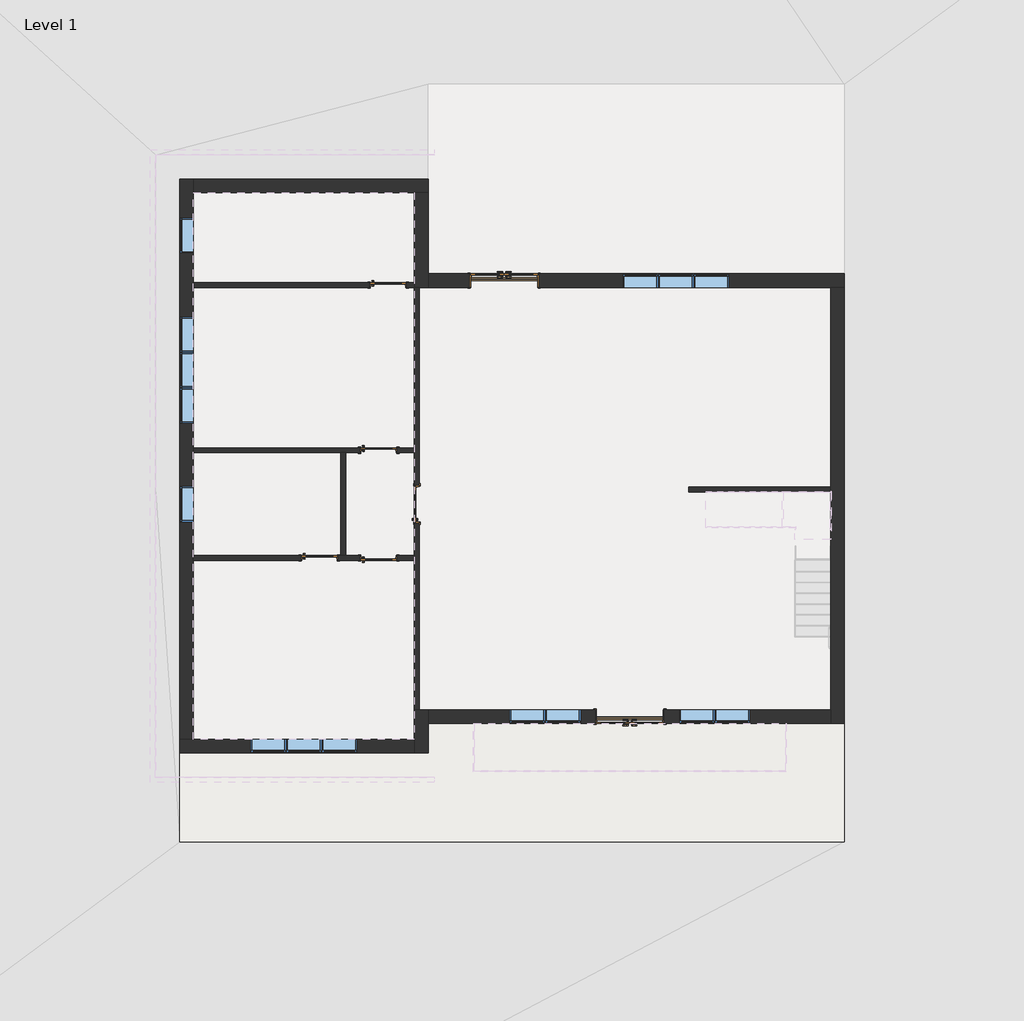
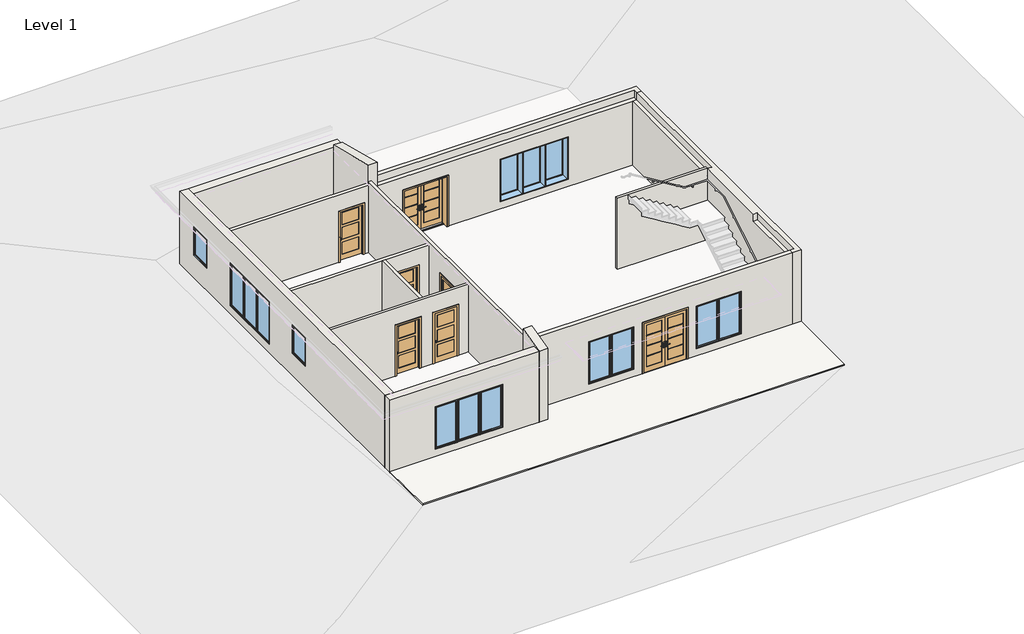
# One storey, part 1 of 2: 15 windows, 14 walls, 7 doors, 1 slab.
"""IFC4 building model written with IfcOpenShell, lengths in millimetres."""

from ifc_helpers import new_model, si_unit, frame, origin, origin_with_axes, place, context, project, spatial, polyline, outline, extrude, faceted_brep, transform, mapped, element, save
from components import door_f2de18c9, door_2a6061a4, door_30cbd227, window_15c49d37, window_145f8bd4, window_9c0dbd08

model = new_model("IFC4")

# Units and contexts
model_context = context("Model", 3, world=origin())
ifc_project = project(units=[si_unit("LENGTHUNIT", "METRE", prefix="MILLI")], contexts=[model_context])

# Site, building, storey
site = spatial("IfcSite", under=ifc_project)
building = spatial("IfcBuilding", under=site)
storey = spatial("IfcBuildingStorey", under=building, Name="Level 1", Elevation=0.0)

# Doors
placement = place(None, origin())
door_shape = door_f2de18c9(model_context)
element("IfcDoor", 1, ObjectType="Door-Exterior-Double-Full Glass-Wood_Clad : 68\" x 84\"", at=placement, inside=storey, context=model_context, shape_type="MappedRepresentation", body=[
    mapped(door_shape, transform((-588.0271335, 5682.0082618, 0.0), x_axis=(1.0, 0.0, 0.0), y_axis=(0.0, 1.0, 0.0), z_axis=(0.0, 0.0, 1.0))),
])
element("IfcDoor", 2, ObjectType="Door-Exterior-Double-Full Glass-Wood_Clad : 68\" x 84\"", at=placement, inside=storey, context=model_context, shape_type="MappedRepresentation", body=[
    mapped(door_shape, transform((2645.7103665, -5555.9042382, 0.0), x_axis=(-1.0, 0.0, 0.0), y_axis=(0.0, -1.0, 0.0), z_axis=(0.0, 0.0, 1.0))),
])
door_2_shape = door_2a6061a4(model_context)
element("IfcDoor", 3, ObjectType="Door-Interior-Single-3_Panel_Vert-Wood : 36\" x 84\"", at=placement, inside=storey, context=model_context, shape_type="MappedRepresentation", body=[
    mapped(door_2_shape, transform((-3820.1771335, 1313.3824196, 0.0), x_axis=(1.0, 0.0, 0.0), y_axis=(0.0, 1.0, 0.0), z_axis=(0.0, 0.0, 1.0))),
])
element("IfcDoor", 4, ObjectType="Door-Interior-Single-3_Panel_Vert-Wood : 36\" x 84\"", at=placement, inside=storey, context=model_context, shape_type="MappedRepresentation", body=[
    mapped(door_2_shape, transform((-5344.1771335, -1461.5675804, 0.0), x_axis=(1.0, 0.0, 0.0), y_axis=(0.0, 1.0, 0.0), z_axis=(0.0, 0.0, 1.0))),
])
element("IfcDoor", 5, ObjectType="Door-Interior-Single-3_Panel_Vert-Wood : 36\" x 84\"", at=placement, inside=storey, context=model_context, shape_type="MappedRepresentation", body=[
    mapped(door_2_shape, transform((-3575.7021335, 5567.7082618, 0.0), x_axis=(1.0, 0.0, 0.0), y_axis=(0.0, 1.0, 0.0), z_axis=(0.0, 0.0, 1.0))),
])
element("IfcDoor", 6, ObjectType="Door-Interior-Single-3_Panel_Vert-Wood : 36\" x 84\"", at=placement, inside=storey, context=model_context, shape_type="MappedRepresentation", body=[
    mapped(door_2_shape, transform((-2839.1021335, -77.2675804, 0.0), x_axis=(0.0, 1.0, 0.0), y_axis=(-1.0, 0.0, 0.0), z_axis=(0.0, 0.0, 1.0))),
])
door_3_shape = door_30cbd227(model_context)
element("IfcDoor", 7, ObjectType="Door-Interior-Single-3_Panel_Vert-Wood : 36\" x 84\"", at=placement, inside=storey, context=model_context, shape_type="MappedRepresentation", body=[
    mapped(door_3_shape, transform((-3820.1771335, -1467.9175804, 0.0), x_axis=(1.0, 0.0, 0.0), y_axis=(0.0, 1.0, 0.0), z_axis=(0.0, 0.0, 1.0))),
])

# Slab
element("IfcSlab", 8, ObjectType="Exterior Decking", at=placement, inside=storey, context=model_context, shape_type="SweptSolid", body=[
    extrude(outline(polyline([(8170.2103665, -5728.9417382), (8170.2103665, -8776.9417382), (-8946.2146335, -8776.9417382), (-8946.2146335, -6489.3542382), (-2545.4146335, -6489.3542382), (-2545.4146335, -5728.9417382), (8170.2103665, -5728.9417382)])), frame((0.0, 0.0, -177.8), z_axis=(0.0, 0.0, 1.0), x_axis=(1.0, 0.0, 0.0)), (0.0, 0.0, 1.0), 177.8),
])

# Walls
element("IfcWall", 9, ObjectType="Exterior - Brick on Mtl. Stud", at=placement, inside=storey, context=model_context, shape_type="Brep", body=[
    faceted_brep([(8170.2103665, 5502.6207618, -304.8), (8170.2103665, 5502.6207618, 3048.0), (7982.8853665, 5502.6207618, 3048.0), (7982.8853665, 5502.6207618, 2743.2), (7817.7853665, 5502.6207618, 2743.2), (-2545.4146335, 5502.6207618, 2743.2), (-2545.4146335, 5502.6207618, 0.0), (-1477.0271335, 5502.6207618, 0.0), (-1477.0271335, 5502.6207618, 2159.0), (300.9728665, 5502.6207618, 2159.0), (300.9728665, 5502.6207618, 0.0), (7817.7853665, 5502.6207618, 0.0), (7982.8853665, 5502.6207618, 0.0), (7982.8853665, 5502.6207618, -304.8), (5201.9826836, 5502.6207618, 2133.6), (5201.9826836, 5502.6207618, 304.8), (2458.7826836, 5502.6207618, 304.8), (2458.7826836, 5502.6207618, 2133.6), (-2545.4146335, 5855.0457618, 3048.0), (7817.7853665, 5855.0457618, 3048.0), (8170.2103665, 5855.0457618, 3048.0), (8170.2103665, 5855.0457618, -304.8), (300.9728665, 5855.0457618, -304.8), (300.9728665, 5855.0457618, 0.0), (300.9728665, 5855.0457618, 2159.0), (-1477.0271335, 5855.0457618, 2159.0), (-1477.0271335, 5855.0457618, 0.0), (-1477.0271335, 5855.0457618, -304.8), (-2545.4146335, 5855.0457618, -304.8), (5201.9826836, 5855.0457618, 304.8), (5201.9826836, 5855.0457618, 2133.6), (2458.7826836, 5855.0457618, 2133.6), (2458.7826836, 5855.0457618, 304.8), (7982.8853665, 5667.7207618, -304.8), (300.9728665, 5667.7207618, -304.8), (-1477.0271335, 5667.7207618, -304.8), (-2545.4146335, 5667.7207618, -304.8), (-2545.4146335, 5667.7207618, 3048.0), (7982.8853665, 5667.7207618, 3048.0), (300.9728665, 5667.7207618, 0.0), (-1477.0271335, 5667.7207618, 0.0), (-2545.4146335, 5667.7207618, 0.0), (7982.8853665, 5667.7207618, 0.0), (7982.8853665, 5667.7207618, 2743.2), (-2545.4146335, 5667.7207618, 2743.2)], [[[0, 1, 2, 3, 4, 5, 6, 7, 8, 9, 10, 11, 12, 13], [14, 15, 16, 17]], [[18, 19, 20, 21, 22, 23, 24, 25, 26, 27, 28], [29, 30, 31, 32]], [[21, 0, 13, 33, 34, 22]], [[35, 36, 28, 27]], [[20, 19, 18, 37, 38, 2, 1]], [[1, 0, 21, 20]], [[15, 29, 32, 16]], [[29, 15, 14, 30]], [[30, 14, 17, 31]], [[31, 17, 16, 32]], [[9, 24, 23, 22, 34, 39, 10]], [[24, 9, 8, 25]], [[25, 8, 7, 40, 35, 27, 26]], [[41, 40, 7, 6]], [[42, 12, 11, 10, 39]], [[40, 41, 36, 35]], [[12, 42, 33, 13]], [[3, 43, 44, 5, 4]], [[43, 38, 37, 44]], [[38, 43, 3, 2]], [[18, 28, 36, 41, 6, 5, 44, 37]], [[42, 39, 34, 33]]]),
])
element("IfcWall", 10, ObjectType="Exterior - Brick on Mtl. Stud", at=placement, inside=storey, context=model_context, shape_type="Brep", body=[
    faceted_brep([(7817.7853665, -5728.9417382, -304.8), (7817.7853665, -5728.9417382, 3048.0), (7817.7853665, -5541.6167382, 3048.0), (7817.7853665, -5541.6167382, 2743.2), (7817.7853665, -5376.5167382, 2743.2), (7817.7853665, -2988.9167382, 2743.2), (7817.7853665, -2988.9167382, 3048.0), (7817.7853665, 236.8832618, 3048.0), (7817.7853665, 236.8832618, 2743.2), (7817.7853665, 5502.6207618, 2743.2), (7817.7853665, 5502.6207618, 0.0), (7817.7853665, 363.8832618, 0.0), (7817.7853665, 236.8832618, 0.0), (7817.7853665, -5376.5167382, 0.0), (7817.7853665, -5541.6167382, 0.0), (7817.7853665, -5541.6167382, -304.8), (8170.2103665, -5728.9417382, -304.8), (8170.2103665, 5502.6207618, -304.8), (8170.2103665, 5502.6207618, 3048.0), (8170.2103665, -5728.9417382, 3048.0), (7982.8853665, -5541.6167382, -304.8), (7982.8853665, 5502.6207618, -304.8), (7982.8853665, 5502.6207618, 3048.0), (7982.8853665, 236.8832618, 3048.0), (7982.8853665, -2988.9167382, 3048.0), (7982.8853665, -5541.6167382, 3048.0), (7982.8853665, 5502.6207618, 0.0), (7982.8853665, 5502.6207618, 2743.2), (7982.8853665, -5541.6167382, 0.0), (7982.8853665, -5541.6167382, 2743.2), (7982.8853665, -2988.9167382, 2743.2), (7982.8853665, 236.8832618, 2743.2)], [[[0, 1, 2, 3, 4, 5, 6, 7, 8, 9, 10, 11, 12, 13, 14, 15]], [[16, 17, 18, 19]], [[17, 16, 0, 15, 20, 21]], [[19, 18, 22, 23, 7, 6, 24, 25, 2, 1]], [[18, 17, 21, 26, 10, 9, 27, 22]], [[1, 0, 16, 19]], [[26, 28, 14, 13, 12, 11, 10]], [[20, 28, 26, 21]], [[28, 20, 15, 14]], [[29, 30, 5, 4, 3]], [[8, 31, 27, 9]], [[31, 23, 22, 27]], [[25, 29, 3, 2]], [[30, 29, 25, 24]], [[23, 31, 8, 7]], [[30, 24, 6, 5]]]),
])
element("IfcWall", 11, ObjectType="Exterior - Brick on Mtl. Stud", at=placement, inside=storey, context=model_context, shape_type="Brep", body=[
    faceted_brep([(7817.7853665, -5728.9417382, 3048.0), (-2545.4146335, -5728.9417382, 3048.0), (-2545.4146335, -5728.9417382, -304.8), (1756.7103665, -5728.9417382, -304.8), (1756.7103665, -5728.9417382, 0.0), (1756.7103665, -5728.9417382, 2159.0), (3534.7103665, -5728.9417382, 2159.0), (3534.7103665, -5728.9417382, 0.0), (3534.7103665, -5728.9417382, -304.8), (7817.7853665, -5728.9417382, -304.8), (3914.1228665, -5728.9417382, 304.8), (3914.1228665, -5728.9417382, 2133.6), (5742.9228665, -5728.9417382, 2133.6), (5742.9228665, -5728.9417382, 304.8), (1377.2978665, -5728.9417382, 2133.6), (1377.2978665, -5728.9417382, 304.8), (-451.5021335, -5728.9417382, 304.8), (-451.5021335, -5728.9417382, 2133.6), (1756.7103665, -5376.5167382, 2159.0), (1756.7103665, -5376.5167382, 0.0), (-2545.4146335, -5376.5167382, 0.0), (-2545.4146335, -5376.5167382, 2743.2), (7817.7853665, -5376.5167382, 2743.2), (7817.7853665, -5376.5167382, 0.0), (3534.7103665, -5376.5167382, 0.0), (3534.7103665, -5376.5167382, 2159.0), (3914.1228665, -5376.5167382, 2133.6), (3914.1228665, -5376.5167382, 304.8), (5742.9228665, -5376.5167382, 304.8), (5742.9228665, -5376.5167382, 2133.6), (1377.2978665, -5376.5167382, 304.8), (1377.2978665, -5376.5167382, 2133.6), (-451.5021335, -5376.5167382, 2133.6), (-451.5021335, -5376.5167382, 304.8), (-2545.4146335, -5541.6167382, -304.8), (1756.7103665, -5541.6167382, -304.8), (7817.7853665, -5541.6167382, -304.8), (3534.7103665, -5541.6167382, -304.8), (7817.7853665, -5541.6167382, 3048.0), (-2545.4146335, -5541.6167382, 3048.0), (1756.7103665, -5541.6167382, 0.0), (3534.7103665, -5541.6167382, 0.0), (7817.7853665, -5541.6167382, 0.0), (7817.7853665, -5541.6167382, 2743.2), (-2545.4146335, -5541.6167382, 2743.2), (-2545.4146335, -5541.6167382, 0.0)], [[[0, 1, 2, 3, 4, 5, 6, 7, 8, 9], [10, 11, 12, 13], [14, 15, 16, 17]], [[18, 19, 20, 21, 22, 23, 24, 25], [26, 27, 28, 29], [30, 31, 32, 33]], [[2, 34, 35, 3]], [[36, 9, 8, 37]], [[1, 0, 38, 39]], [[18, 5, 4, 3, 35, 40, 19]], [[5, 18, 25, 6]], [[6, 25, 24, 41, 37, 8, 7]], [[27, 26, 11, 10]], [[27, 10, 13, 28]], [[11, 26, 29, 12]], [[15, 14, 31, 30]], [[15, 30, 33, 16]], [[31, 14, 17, 32]], [[0, 9, 36, 42, 23, 22, 43, 38]], [[2, 1, 39, 44, 21, 20, 45, 34]], [[24, 23, 42, 41]], [[40, 45, 20, 19]], [[45, 40, 35, 34]], [[44, 43, 22, 21]], [[43, 44, 39, 38]], [[28, 13, 12, 29]], [[32, 17, 16, 33]], [[37, 41, 42, 36]]]),
])
element("IfcWall", 12, ObjectType="Exterior - Timber Siding on Mtl. Stud", at=placement, inside=storey, context=model_context, shape_type="Brep", body=[
    faceted_brep([(-2897.8396335, -6489.3542382, -304.8), (-2897.8396335, -6489.3542382, 3048.0), (-2897.8396335, -5376.5167382, 3326.209375), (-2897.8396335, -5376.5167382, 3048.0), (-2897.8396335, -5376.5167382, 0.0), (-2897.8396335, -6136.9292382, 0.0), (-2897.8396335, -6302.0292382, 0.0), (-2897.8396335, -6302.0292382, -304.8), (-2545.4146335, -6489.3542382, 3048.0), (-2545.4146335, -6489.3542382, -304.8), (-2545.4146335, -5728.9417382, -304.8), (-2545.4146335, -5541.6167382, -304.8), (-2545.4146335, -5541.6167382, 0.0), (-2545.4146335, -5376.5167382, 0.0), (-2545.4146335, -5376.5167382, 2743.2), (-2545.4146335, -5376.5167382, 3048.0), (-2545.4146335, -5376.5167382, 3326.209375), (-2732.7396335, -6302.0292382, -304.8), (-2732.7396335, -5541.6167382, -304.8), (-2774.0146335, -5376.5167382, 0.0), (-2732.7396335, -5541.6167382, 0.0), (-2732.7396335, -6302.0292382, 0.0)], [[[0, 1, 2, 3, 4, 5, 6, 7]], [[8, 9, 10, 11, 12, 13, 14, 15, 16]], [[9, 0, 7, 17, 18, 11, 10]], [[1, 0, 9, 8]], [[2, 16, 15, 14, 13, 19, 4, 3]], [[20, 21, 6, 5, 4, 19, 13, 12]], [[18, 20, 12, 11]], [[21, 20, 18, 17]], [[21, 17, 7, 6]], [[2, 1, 8, 16]]]),
])
element("IfcWall", 13, ObjectType="Exterior - Timber Siding on Mtl. Stud", at=placement, inside=storey, context=model_context, shape_type="Brep", body=[
    faceted_brep([(-8946.2146335, -6136.9292382, 3048.0), (-8593.7896335, -6136.9292382, 3048.0), (-2897.8396335, -6136.9292382, 3048.0), (-2897.8396335, -6136.9292382, 0.0), (-8758.8896335, -6136.9292382, 0.0), (-8758.8896335, -6136.9292382, -304.8), (-8946.2146335, -6136.9292382, -304.8), (-7117.4146335, -6136.9292382, 2133.6), (-7117.4146335, -6136.9292382, 304.8), (-4374.2146335, -6136.9292382, 304.8), (-4374.2146335, -6136.9292382, 2133.6), (-8946.2146335, -6489.3542382, -304.8), (-2897.8396335, -6489.3542382, -304.8), (-2897.8396335, -6489.3542382, 3048.0), (-8946.2146335, -6489.3542382, 3048.0), (-7117.4146335, -6489.3542382, 304.8), (-7117.4146335, -6489.3542382, 2133.6), (-4374.2146335, -6489.3542382, 2133.6), (-4374.2146335, -6489.3542382, 304.8), (-8758.8896335, -6302.0292382, -304.8), (-2897.8396335, -6302.0292382, -304.8), (-2897.8396335, -6302.0292382, 0.0), (-8758.8896335, -6302.0292382, 0.0)], [[[0, 1, 2, 3, 4, 5, 6], [7, 8, 9, 10]], [[11, 12, 13, 14], [15, 16, 17, 18]], [[12, 11, 6, 5, 19, 20]], [[2, 1, 0, 14, 13]], [[2, 13, 12, 20, 21, 3]], [[0, 6, 11, 14]], [[8, 15, 18, 9]], [[16, 7, 10, 17]], [[7, 16, 15, 8]], [[9, 18, 17, 10]], [[21, 22, 4, 3]], [[19, 22, 21, 20]], [[22, 19, 5, 4]]]),
])
element("IfcWall", 14, ObjectType="Exterior - Timber Siding on Mtl. Stud", at=placement, inside=storey, context=model_context, shape_type="Brep", body=[
    faceted_brep([(-8593.7896335, 8293.4457618, 3048.0), (-8593.7896335, 7941.0207618, 3048.0), (-8593.7896335, -6136.9292382, 3048.0), (-8593.7896335, -6136.9292382, 0.0), (-8593.7896335, -1526.6550804, 0.0), (-8593.7896335, -1402.8300804, 0.0), (-8593.7896335, 1248.2949196, 0.0), (-8593.7896335, 1372.1199196, 0.0), (-8593.7896335, 5502.6207618, 0.0), (-8593.7896335, 5626.4457618, 0.0), (-8593.7896335, 7941.0207618, 0.0), (-8593.7896335, 8106.1207618, 0.0), (-8593.7896335, 8106.1207618, -304.8), (-8593.7896335, 8293.4457618, -304.8), (-8593.7896335, 2002.2703407, 304.8), (-8593.7896335, 2002.2703407, 2133.6), (-8593.7896335, 4745.4703407, 2133.6), (-8593.7896335, 4745.4703407, 304.8), (-8593.7896335, 379.9324196, 2133.6), (-8593.7896335, 379.9324196, 914.4), (-8593.7896335, -534.4675804, 914.4), (-8593.7896335, -534.4675804, 2133.6), (-8593.7896335, 7298.8770118, 2133.6), (-8593.7896335, 7298.8770118, 914.4), (-8593.7896335, 6384.4770118, 914.4), (-8593.7896335, 6384.4770118, 2133.6), (-8946.2146335, 8293.4457618, -304.8), (-8946.2146335, -6136.9292382, -304.8), (-8946.2146335, -6136.9292382, 3048.0), (-8946.2146335, 8293.4457618, 3048.0), (-8946.2146335, 2002.2703407, 2133.6), (-8946.2146335, 2002.2703407, 304.8), (-8946.2146335, 4745.4703407, 304.8), (-8946.2146335, 4745.4703407, 2133.6), (-8946.2146335, 379.9324196, 914.4), (-8946.2146335, 379.9324196, 2133.6), (-8946.2146335, -534.4675804, 2133.6), (-8946.2146335, -534.4675804, 914.4), (-8946.2146335, 7298.8770118, 914.4), (-8946.2146335, 7298.8770118, 2133.6), (-8946.2146335, 6384.4770118, 2133.6), (-8946.2146335, 6384.4770118, 914.4), (-8758.8896335, 8106.1207618, -304.8), (-8758.8896335, -6136.9292382, -304.8), (-8758.8896335, -6136.9292382, 0.0), (-8758.8896335, 8106.1207618, 0.0)], [[[0, 1, 2, 3, 4, 5, 6, 7, 8, 9, 10, 11, 12, 13], [14, 15, 16, 17], [18, 19, 20, 21], [22, 23, 24, 25]], [[26, 27, 28, 29], [30, 31, 32, 33], [34, 35, 36, 37], [38, 39, 40, 41]], [[27, 26, 13, 12, 42, 43]], [[2, 1, 0, 29, 28]], [[2, 28, 27, 43, 44, 3]], [[31, 14, 17, 32]], [[14, 31, 30, 15]], [[15, 30, 33, 16]], [[16, 33, 32, 17]], [[19, 18, 35, 34]], [[20, 19, 34, 37]], [[21, 20, 37, 36]], [[18, 21, 36, 35]], [[0, 13, 26, 29]], [[23, 22, 39, 38]], [[24, 23, 38, 41]], [[25, 24, 41, 40]], [[22, 25, 40, 39]], [[44, 45, 11, 10, 9, 8, 7, 6, 5, 4, 3]], [[42, 45, 44, 43]], [[45, 42, 12, 11]]]),
])
element("IfcWall", 15, ObjectType="Exterior - Timber Siding on Mtl. Stud", at=placement, inside=storey, context=model_context, shape_type="Brep", body=[
    faceted_brep([(-2545.4146335, 7941.0207618, 3048.0), (-8593.7896335, 7941.0207618, 3048.0), (-8593.7896335, 7941.0207618, 0.0), (-2732.7396335, 7941.0207618, 0.0), (-2732.7396335, 7941.0207618, -304.8), (-2545.4146335, 7941.0207618, -304.8), (-2545.4146335, 8293.4457618, -304.8), (-8593.7896335, 8293.4457618, -304.8), (-8593.7896335, 8293.4457618, 3048.0), (-2545.4146335, 8293.4457618, 3048.0), (-2732.7396335, 8106.1207618, -304.8), (-8593.7896335, 8106.1207618, -304.8), (-8593.7896335, 8106.1207618, 0.0), (-2732.7396335, 8106.1207618, 0.0)], [[[0, 1, 2, 3, 4, 5]], [[6, 7, 8, 9]], [[7, 6, 5, 4, 10, 11]], [[1, 0, 9, 8]], [[0, 5, 6, 9]], [[1, 8, 7, 11, 12, 2]], [[12, 13, 3, 2]], [[10, 13, 12, 11]], [[13, 10, 4, 3]]]),
])
element("IfcWall", 16, ObjectType="Exterior - Timber Siding on Mtl. Stud", at=placement, inside=storey, context=model_context, shape_type="Brep", body=[
    faceted_brep([(-2897.8396335, 5502.6207618, 3745.70625), (-2897.8396335, 7941.0207618, 3136.10625), (-2897.8396335, 7941.0207618, 0.0), (-2897.8396335, 5626.4457618, 0.0), (-2897.8396335, 5502.6207618, 0.0), (-2897.8396335, 5502.6207618, 2895.6), (-2897.8396335, 5502.6207618, 3048.0), (-2545.4146335, 7941.0207618, -304.8), (-2545.4146335, 7941.0207618, 3048.0), (-2545.4146335, 7941.0207618, 3136.10625), (-2545.4146335, 5502.6207618, 3745.70625), (-2545.4146335, 5502.6207618, 2743.2), (-2545.4146335, 5502.6207618, 0.0), (-2545.4146335, 5667.7207618, 0.0), (-2545.4146335, 5667.7207618, -304.8), (-2545.4146335, 5855.0457618, -304.8), (-2732.7396335, 5667.7207618, -304.8), (-2732.7396335, 7941.0207618, -304.8), (-2732.7396335, 7941.0207618, 0.0), (-2732.7396335, 5667.7207618, 0.0), (-2774.0146335, 5502.6207618, 0.0)], [[[0, 1, 2, 3, 4, 5, 6]], [[7, 8, 9, 10, 11, 12, 13, 14, 15]], [[7, 15, 14, 16, 17]], [[9, 8, 7, 17, 18, 2, 1]], [[19, 13, 12, 20, 4, 3, 2, 18]], [[19, 16, 14, 13]], [[16, 19, 18, 17]], [[1, 0, 10, 9]], [[10, 0, 6, 5, 4, 20, 12, 11]]]),
])
element("IfcWall", 17, ObjectType="Interior - 4 7/8\" Partition (1-hr)", at=placement, inside=storey, context=model_context, shape_type="Brep", body=[
    faceted_brep([(-2774.0146335, 5502.6207618, 3048.0), (-2774.0146335, -5376.5167382, 3048.0), (-2774.0146335, -5376.5167382, 0.0), (-2774.0146335, -559.8675804, 0.0), (-2774.0146335, -559.8675804, 2159.0), (-2774.0146335, 405.3324196, 2159.0), (-2774.0146335, 405.3324196, 0.0), (-2774.0146335, 5502.6207618, 0.0), (-2897.8396335, -5376.5167382, 3048.0), (-2897.8396335, 5502.6207618, 3048.0), (-2897.8396335, 5502.6207618, 0.0), (-2897.8396335, 1372.1199196, 0.0), (-2897.8396335, 1248.2949196, 0.0), (-2897.8396335, 405.3324196, 0.0), (-2897.8396335, 405.3324196, 2159.0), (-2897.8396335, -559.8675804, 2159.0), (-2897.8396335, -559.8675804, 0.0), (-2897.8396335, -1402.8300804, 0.0), (-2897.8396335, -1526.6550804, 0.0), (-2897.8396335, -5376.5167382, 0.0)], [[[0, 1, 2, 3, 4, 5, 6, 7]], [[8, 9, 10, 11, 12, 13, 14, 15, 16, 17, 18, 19]], [[2, 19, 18, 17, 16, 3]], [[10, 7, 6, 13, 12, 11]], [[1, 0, 9, 8]], [[5, 14, 13, 6]], [[14, 5, 4, 15]], [[15, 4, 3, 16]], [[2, 1, 8, 19]], [[7, 10, 9, 0]]]),
])
element("IfcWall", 18, ObjectType="Interior - 4 7/8\" Partition (1-hr)", at=placement, inside=storey, context=model_context, shape_type="Brep", body=[
    faceted_brep([(-8593.7896335, -1402.8300804, 0.0), (-8593.7896335, -1402.8300804, 2895.6), (-4794.9021335, -1402.8300804, 2895.6), (-4671.0771335, -1402.8300804, 2895.6), (-2897.8396335, -1402.8300804, 2895.6), (-2897.8396335, -1402.8300804, 0.0), (-3337.5771335, -1402.8300804, 0.0), (-3337.5771335, -1402.8300804, 2159.0), (-4302.7771335, -1402.8300804, 2159.0), (-4302.7771335, -1402.8300804, 0.0), (-4671.0771335, -1402.8300804, 0.0), (-4794.9021335, -1402.8300804, 0.0), (-4861.5771335, -1402.8300804, 0.0), (-4861.5771335, -1402.8300804, 2159.0), (-5826.7771335, -1402.8300804, 2159.0), (-5826.7771335, -1402.8300804, 0.0), (-8593.7896335, -1526.6550804, 2895.6), (-8593.7896335, -1526.6550804, 0.0), (-5826.7771335, -1526.6550804, 0.0), (-5826.7771335, -1526.6550804, 2159.0), (-4861.5771335, -1526.6550804, 2159.0), (-4861.5771335, -1526.6550804, 0.0), (-4302.7771335, -1526.6550804, 0.0), (-4302.7771335, -1526.6550804, 2159.0), (-3337.5771335, -1526.6550804, 2159.0), (-3337.5771335, -1526.6550804, 0.0), (-2897.8396335, -1526.6550804, 0.0), (-2897.8396335, -1526.6550804, 2895.6)], [[[0, 1, 2, 3, 4, 5, 6, 7, 8, 9, 10, 11, 12, 13, 14, 15]], [[16, 17, 18, 19, 20, 21, 22, 23, 24, 25, 26, 27]], [[17, 0, 15, 18]], [[5, 26, 25, 6]], [[9, 22, 21, 12, 11, 10]], [[1, 0, 17, 16]], [[5, 4, 27, 26]], [[24, 7, 6, 25]], [[7, 24, 23, 8]], [[8, 23, 22, 9]], [[20, 13, 12, 21]], [[13, 20, 19, 14]], [[14, 19, 18, 15]], [[4, 3, 2, 1, 16, 27]]]),
])
element("IfcWall", 19, ObjectType="Interior - 4 7/8\" Partition (1-hr)", at=placement, inside=storey, context=model_context, shape_type="SweptSolid", body=[
    extrude(outline(polyline([(-4671.0771335, 1248.2949196), (-4671.0771335, -1402.8300804), (-4794.9021335, -1402.8300804), (-4794.9021335, 1248.2949196), (-4671.0771335, 1248.2949196)])), origin_with_axes(), (0.0, 0.0, 1.0), 2895.6),
])
element("IfcWall", 20, ObjectType="Interior - 4 7/8\" Partition (1-hr)", at=placement, inside=storey, context=model_context, shape_type="Brep", body=[
    faceted_brep([(-8593.7896335, 1248.2949196, 2895.6), (-8593.7896335, 1248.2949196, 0.0), (-4794.9021335, 1248.2949196, 0.0), (-4671.0771335, 1248.2949196, 0.0), (-4302.7771335, 1248.2949196, 0.0), (-4302.7771335, 1248.2949196, 2159.0), (-3337.5771335, 1248.2949196, 2159.0), (-3337.5771335, 1248.2949196, 0.0), (-2897.8396335, 1248.2949196, 0.0), (-2897.8396335, 1248.2949196, 2895.6), (-4671.0771335, 1248.2949196, 2895.6), (-4794.9021335, 1248.2949196, 2895.6), (-8593.7896335, 1372.1199196, 0.0), (-8593.7896335, 1372.1199196, 2895.6), (-2897.8396335, 1372.1199196, 2895.6), (-2897.8396335, 1372.1199196, 0.0), (-3337.5771335, 1372.1199196, 0.0), (-3337.5771335, 1372.1199196, 2159.0), (-4302.7771335, 1372.1199196, 2159.0), (-4302.7771335, 1372.1199196, 0.0)], [[[0, 1, 2, 3, 4, 5, 6, 7, 8, 9, 10, 11]], [[12, 13, 14, 15, 16, 17, 18, 19]], [[1, 12, 19, 4, 3, 2]], [[15, 8, 7, 16]], [[1, 0, 13, 12]], [[9, 8, 15, 14]], [[6, 17, 16, 7]], [[17, 6, 5, 18]], [[18, 5, 4, 19]], [[0, 11, 10, 9, 14, 13]]]),
])
element("IfcWall", 21, ObjectType="Interior - 4 7/8\" Partition (1-hr)", at=placement, inside=storey, context=model_context, shape_type="SweptSolid", body=[
    extrude(outline(polyline([(2895.6, -8593.7896335), (0.0, -8593.7896335), (0.0, -4058.3021335), (2159.0, -4058.3021335), (2159.0, -3093.1021335), (0.0, -3093.1021335), (0.0, -2897.8396335), (2895.6, -2897.8396335), (2895.6, -8593.7896335)])), frame((0.0, 5502.6207618, 0.0), z_axis=(0.0, 1.0, 0.0), x_axis=(0.0, 0.0, 1.0)), (0.0, 0.0, 1.0), 123.825),
])
element("IfcWall", 22, ObjectType="Interior - 5\" Partition (2-hr)", at=placement, inside=storey, context=model_context, shape_type="SweptSolid", body=[
    extrude(outline(polyline([(4160.1853665, 363.8832618), (7817.7853665, 363.8832618), (7817.7853665, 236.8832618), (4160.1853665, 236.8832618), (4160.1853665, 363.8832618)])), origin_with_axes(), (0.0, 0.0, 1.0), 3048.0),
])

# Windows
window_shape = window_15c49d37(model_context)
element("IfcWindow", 23, ObjectType="Fixed : 36\" x 48\"", at=placement, inside=storey, context=model_context, shape_type="MappedRepresentation", body=[
    mapped(window_shape, transform((-8770.0021335, -39.1675804, 0.0), x_axis=(0.0, 1.0, 0.0), y_axis=(-1.0, 0.0, 0.0), z_axis=(0.0, 0.0, 1.0))),
])
element("IfcWindow", 24, ObjectType="Fixed : 36\" x 48\"", at=placement, inside=storey, context=model_context, shape_type="MappedRepresentation", body=[
    mapped(window_shape, transform((-8770.0021335, 6879.7770118, 0.0), x_axis=(0.0, 1.0, 0.0), y_axis=(-1.0, 0.0, 0.0), z_axis=(0.0, 0.0, 1.0))),
])
window_2_shape = window_145f8bd4(model_context)
element("IfcWindow", 25, ObjectType="Fixed : 36\" x 72\"", at=placement, inside=storey, context=model_context, shape_type="MappedRepresentation", body=[
    mapped(window_2_shape, transform((-5783.9146335, -6313.1417382, 0.0), x_axis=(-1.0, 0.0, 0.0), y_axis=(0.0, -1.0, 0.0), z_axis=(0.0, 0.0, 1.0))),
])
element("IfcWindow", 26, ObjectType="Fixed : 36\" x 72\"", at=placement, inside=storey, context=model_context, shape_type="MappedRepresentation", body=[
    mapped(window_2_shape, transform((-6698.3146335, -6313.1417382, 0.0), x_axis=(-1.0, 0.0, 0.0), y_axis=(0.0, -1.0, 0.0), z_axis=(0.0, 0.0, 1.0))),
])
element("IfcWindow", 27, ObjectType="Fixed : 36\" x 72\"", at=placement, inside=storey, context=model_context, shape_type="MappedRepresentation", body=[
    mapped(window_2_shape, transform((-4869.5146335, -6313.1417382, 0.0), x_axis=(-1.0, 0.0, 0.0), y_axis=(0.0, -1.0, 0.0), z_axis=(0.0, 0.0, 1.0))),
])
element("IfcWindow", 28, ObjectType="Fixed : 36\" x 72\"", at=placement, inside=storey, context=model_context, shape_type="MappedRepresentation", body=[
    mapped(window_2_shape, transform((-8770.0021335, 3411.9703407, 0.0), x_axis=(0.0, 1.0, 0.0), y_axis=(-1.0, 0.0, 0.0), z_axis=(0.0, 0.0, 1.0))),
])
element("IfcWindow", 29, ObjectType="Fixed : 36\" x 72\"", at=placement, inside=storey, context=model_context, shape_type="MappedRepresentation", body=[
    mapped(window_2_shape, transform((-8770.0021335, 2497.5703407, 0.0), x_axis=(0.0, 1.0, 0.0), y_axis=(-1.0, 0.0, 0.0), z_axis=(0.0, 0.0, 1.0))),
])
element("IfcWindow", 30, ObjectType="Fixed : 36\" x 72\"", at=placement, inside=storey, context=model_context, shape_type="MappedRepresentation", body=[
    mapped(window_2_shape, transform((-8770.0021335, 4326.3703407, 0.0), x_axis=(0.0, 1.0, 0.0), y_axis=(-1.0, 0.0, 0.0), z_axis=(0.0, 0.0, 1.0))),
])
element("IfcWindow", 31, ObjectType="Fixed : 36\" x 72\"", at=placement, inside=storey, context=model_context, shape_type="MappedRepresentation", body=[
    mapped(window_2_shape, transform((4333.2228665, -5552.7292382, 0.0), x_axis=(-1.0, 0.0, 0.0), y_axis=(0.0, -1.0, 0.0), z_axis=(0.0, 0.0, 1.0))),
])
element("IfcWindow", 32, ObjectType="Fixed : 36\" x 72\"", at=placement, inside=storey, context=model_context, shape_type="MappedRepresentation", body=[
    mapped(window_2_shape, transform((5247.6228665, -5552.7292382, 0.0), x_axis=(-1.0, 0.0, 0.0), y_axis=(0.0, -1.0, 0.0), z_axis=(0.0, 0.0, 1.0))),
])
element("IfcWindow", 33, ObjectType="Fixed : 36\" x 72\"", at=placement, inside=storey, context=model_context, shape_type="MappedRepresentation", body=[
    mapped(window_2_shape, transform((-32.4021335, -5552.7292382, 0.0), x_axis=(-1.0, 0.0, 0.0), y_axis=(0.0, -1.0, 0.0), z_axis=(0.0, 0.0, 1.0))),
])
window_3_shape = window_9c0dbd08(model_context)
element("IfcWindow", 34, ObjectType="Fixed : 36\" x 72\"", at=placement, inside=storey, context=model_context, shape_type="MappedRepresentation", body=[
    mapped(window_3_shape, transform((2877.8826836, 5678.8332618, 0.0), x_axis=(-1.0, 0.0, 0.0), y_axis=(0.0, -1.0, 0.0), z_axis=(0.0, 0.0, 1.0))),
])
element("IfcWindow", 35, ObjectType="Fixed : 36\" x 72\"", at=placement, inside=storey, context=model_context, shape_type="MappedRepresentation", body=[
    mapped(window_3_shape, transform((3792.2826836, 5678.8332618, 0.0), x_axis=(-1.0, 0.0, 0.0), y_axis=(0.0, -1.0, 0.0), z_axis=(0.0, 0.0, 1.0))),
])
element("IfcWindow", 36, ObjectType="Fixed : 36\" x 72\"", at=placement, inside=storey, context=model_context, shape_type="MappedRepresentation", body=[
    mapped(window_3_shape, transform((4706.6826836, 5678.8332618, 0.0), x_axis=(-1.0, 0.0, 0.0), y_axis=(0.0, -1.0, 0.0), z_axis=(0.0, 0.0, 1.0))),
])
element("IfcWindow", 37, ObjectType="Fixed : 36\" x 72\"", at=placement, inside=storey, context=model_context, shape_type="MappedRepresentation", body=[
    mapped(window_3_shape, transform((958.1978665, -5552.7292382, 0.0), x_axis=(1.0, 0.0, 0.0), y_axis=(0.0, 1.0, 0.0), z_axis=(0.0, 0.0, 1.0))),
])

save(model, "model.ifc")
